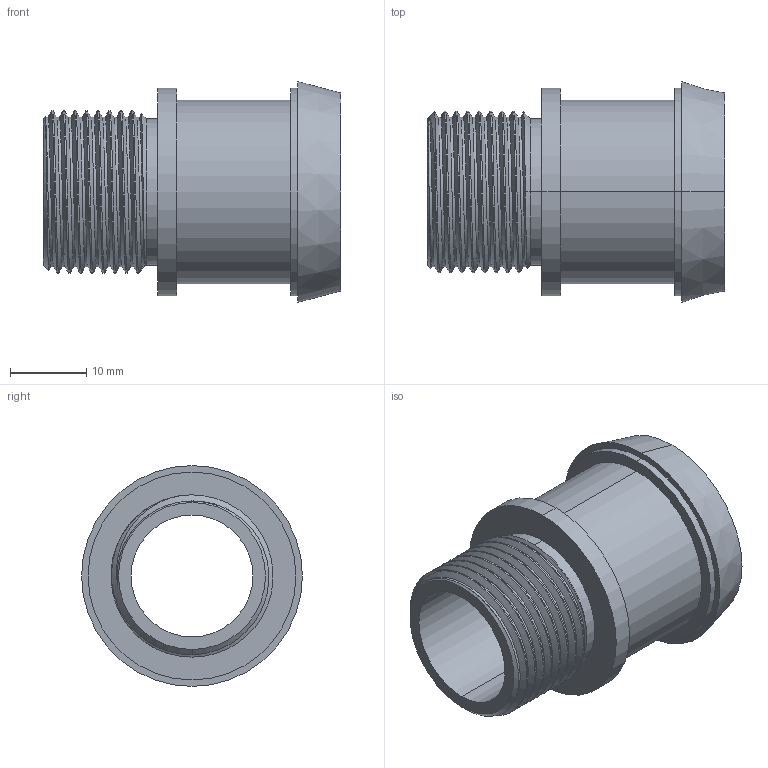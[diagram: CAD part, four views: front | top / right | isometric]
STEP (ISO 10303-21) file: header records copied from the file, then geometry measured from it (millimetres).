
FILE_DESCRIPTION (( 'STEP AP203' ), '1' );
FILE_NAME ('3D-M2036P_15 1- 2_174221070.STEP', '2024-09-07T07:52:50', ( '' ), ( '' ), 'SwSTEP 2.0', 'SolidWorks 2024', '' );
FILE_SCHEMA (( 'CONFIG_CONTROL_DESIGN' ));
Length unit declared in the file: millimetre
Products named in the file (1): 3D-M2036P_15 1- 2_174221070
Bounding box: 39 x 29 x 29 mm (x, y, z)
Volume: 9143.3 mm3; surface area: 6411.5 mm2
Topology: 1 solids, 1 shells, 43 faces, 106 edges, 69 vertices
Faces by surface type: cylinder 27, plane 7, cone 6, bspline 3
Entity records: 2998 total; most frequent: CARTESIAN_POINT 2001, ORIENTED_EDGE 212, DIRECTION 173, EDGE_CURVE 106, AXIS2_PLACEMENT_3D 69, VERTEX_POINT 69, EDGE_LOOP 49, ADVANCED_FACE 43
